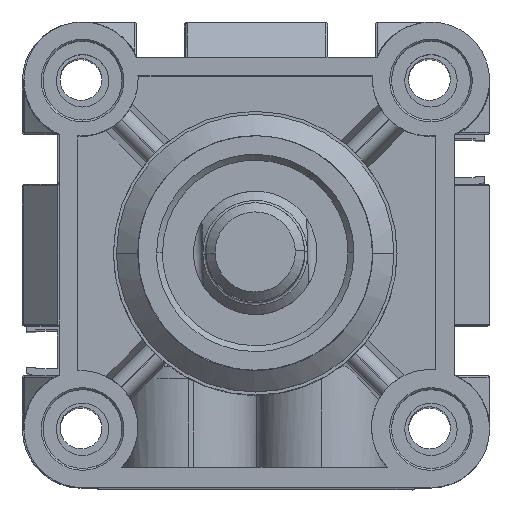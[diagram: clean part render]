
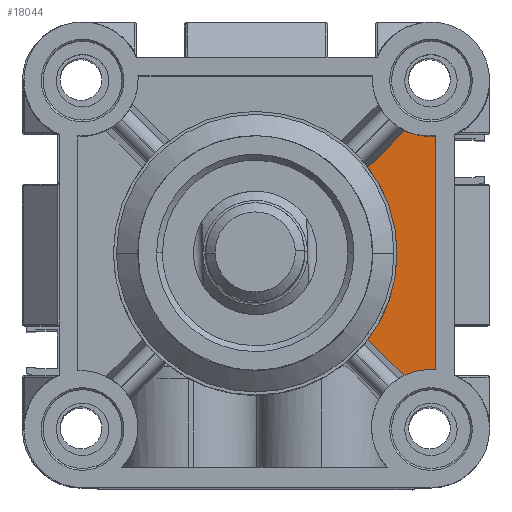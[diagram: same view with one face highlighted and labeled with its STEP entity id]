
A CAD part, top view. The second image highlights one B-rep face of the part: STEP entity #18044.
In plain terms, the highlighted planar face has unit normal (0, 0, 1) as drawn and (0, 0, -1) by its records, which use the part's own axes.
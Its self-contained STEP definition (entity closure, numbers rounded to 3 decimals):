
#683 = EDGE_LOOP ( 'NONE', ( #13518, #4668, #9126, #18487, #10582, #14239, #6535 ) ) ;
#1083 = DIRECTION ( 'NONE',  ( 0.707, -0.707, 0. ) ) ;
#2139 = AXIS2_PLACEMENT_3D ( 'NONE', #15598, #5797, #17238 ) ;
#2292 = CARTESIAN_POINT ( 'NONE',  ( 4., 60.5, 33. ) ) ;
#2640 = VERTEX_POINT ( 'NONE', #18989 ) ;
#2742 = FACE_OUTER_BOUND ( 'NONE', #683, .T. ) ;
#3410 = VERTEX_POINT ( 'NONE', #20773 ) ;
#3441 = CARTESIAN_POINT ( 'NONE',  ( 13.975, 46.215, 33. ) ) ;
#3662 = VERTEX_POINT ( 'NONE', #9884 ) ;
#3674 = DIRECTION ( 'NONE',  ( 0., 1., 0. ) ) ;
#3694 = CARTESIAN_POINT ( 'NONE',  ( 9.25, 32.25, 33. ) ) ;
#3699 = VERTEX_POINT ( 'NONE', #13130 ) ;
#3785 = CARTESIAN_POINT ( 'NONE',  ( 14.041, 12.194, 33. ) ) ;
#3961 = DIRECTION ( 'NONE',  ( -1., 0., 0. ) ) ;
#4603 = CIRCLE ( 'NONE', #2139, 23. ) ;
#4610 = CARTESIAN_POINT ( 'NONE',  ( 32.25, 32.25, 33. ) ) ;
#4668 = ORIENTED_EDGE ( 'NONE', *, *, #8048, .T. ) ;
#5324 = EDGE_CURVE ( 'NONE', #20328, #3410, #4603, .T. ) ;
#5402 = LINE ( 'NONE', #6035, #13586 ) ;
#5474 = DIRECTION ( 'NONE',  ( -1., 0., 0. ) ) ;
#5618 = CIRCLE ( 'NONE', #15700, 9.25 ) ;
#5797 = DIRECTION ( 'NONE',  ( 0., 0., 1. ) ) ;
#6035 = CARTESIAN_POINT ( 'NONE',  ( 8.021, 52.169, 33. ) ) ;
#6290 = DIRECTION ( 'NONE',  ( -1., 0., 0. ) ) ;
#6535 = ORIENTED_EDGE ( 'NONE', *, *, #8078, .T. ) ;
#6564 = CARTESIAN_POINT ( 'NONE',  ( 13.975, 18.285, 33. ) ) ;
#6855 = EDGE_CURVE ( 'NONE', #3410, #14417, #21277, .T. ) ;
#7165 = VECTOR ( 'NONE', #3674, 1000. ) ;
#7176 = EDGE_CURVE ( 'NONE', #2640, #17403, #5402, .T. ) ;
#7829 = CARTESIAN_POINT ( 'NONE',  ( 8.123, 12.433, 33. ) ) ;
#7959 = EDGE_CURVE ( 'NONE', #3662, #3699, #20758, .T. ) ;
#8048 = EDGE_CURVE ( 'NONE', #3699, #2640, #5618, .T. ) ;
#8078 = EDGE_CURVE ( 'NONE', #14417, #3662, #18163, .T. ) ;
#8196 = VECTOR ( 'NONE', #16356, 1000. ) ;
#9126 = ORIENTED_EDGE ( 'NONE', *, *, #7176, .T. ) ;
#9335 = DIRECTION ( 'NONE',  ( 0., 0., 1. ) ) ;
#9884 = CARTESIAN_POINT ( 'NONE',  ( 3., 13.333, 33. ) ) ;
#10582 = ORIENTED_EDGE ( 'NONE', *, *, #5324, .T. ) ;
#11902 = AXIS2_PLACEMENT_3D ( 'NONE', #4610, #16065, #6290 ) ;
#11999 = PLANE ( 'NONE',  #20714 ) ;
#13130 = CARTESIAN_POINT ( 'NONE',  ( 3., 51.304, 33. ) ) ;
#13518 = ORIENTED_EDGE ( 'NONE', *, *, #7959, .T. ) ;
#13586 = VECTOR ( 'NONE', #1083, 1000. ) ;
#13807 = DIRECTION ( 'NONE',  ( 0., 0., 1. ) ) ;
#14239 = ORIENTED_EDGE ( 'NONE', *, *, #6855, .T. ) ;
#14417 = VERTEX_POINT ( 'NONE', #7829 ) ;
#15008 = EDGE_CURVE ( 'NONE', #17403, #20328, #16170, .T. ) ;
#15274 = DIRECTION ( 'NONE',  ( 0., 0., -1. ) ) ;
#15466 = AXIS2_PLACEMENT_3D ( 'NONE', #19136, #9335, #20807 ) ;
#15598 = CARTESIAN_POINT ( 'NONE',  ( 32.25, 32.25, 33. ) ) ;
#15700 = AXIS2_PLACEMENT_3D ( 'NONE', #2292, #13807, #3961 ) ;
#16065 = DIRECTION ( 'NONE',  ( 0., 0., 1. ) ) ;
#16170 = CIRCLE ( 'NONE', #11902, 23. ) ;
#16356 = DIRECTION ( 'NONE',  ( -0.707, -0.707, 0. ) ) ;
#16743 = CARTESIAN_POINT ( 'NONE',  ( 3., 32.319, 33. ) ) ;
#17238 = DIRECTION ( 'NONE',  ( -1., 0., 0. ) ) ;
#17403 = VERTEX_POINT ( 'NONE', #3441 ) ;
#18044 = ADVANCED_FACE ( 'NONE', ( #2742 ), #11999, .T. ) ;
#18163 = CIRCLE ( 'NONE', #15466, 9.386 ) ;
#18487 = ORIENTED_EDGE ( 'NONE', *, *, #15008, .T. ) ;
#18989 = CARTESIAN_POINT ( 'NONE',  ( 8.021, 52.169, 33. ) ) ;
#19136 = CARTESIAN_POINT ( 'NONE',  ( 4., 4., 33. ) ) ;
#20328 = VERTEX_POINT ( 'NONE', #3694 ) ;
#20714 = AXIS2_PLACEMENT_3D ( 'NONE', #3785, #15274, #5474 ) ;
#20758 = LINE ( 'NONE', #16743, #7165 ) ;
#20773 = CARTESIAN_POINT ( 'NONE',  ( 13.975, 18.285, 33. ) ) ;
#20807 = DIRECTION ( 'NONE',  ( -1., 0., 0. ) ) ;
#21277 = LINE ( 'NONE', #6564, #8196 ) ;
